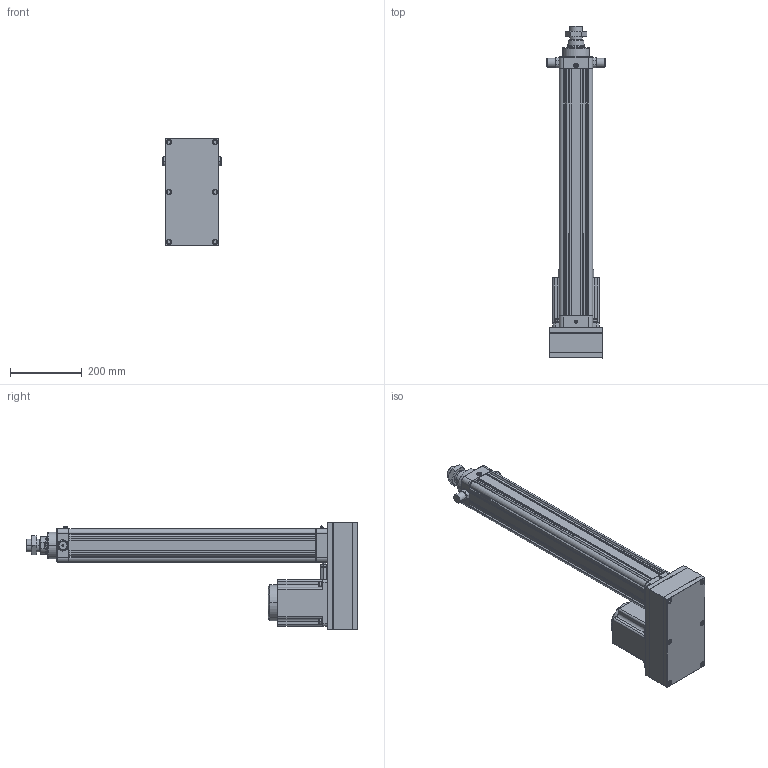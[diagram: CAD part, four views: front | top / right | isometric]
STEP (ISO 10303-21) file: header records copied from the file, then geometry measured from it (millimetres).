
FILE_DESCRIPTION((''),'2;1');
FILE_NAME('HE80-D-P_ASM','2020-05-13T',('ASUS20200'),(''),'CREO PARAMETRIC BY PTC INC, 2014190','CREO PARAMETRIC BY PTC INC, 2014190','');
FILE_SCHEMA(('CONFIG_CONTROL_DESIGN'));
Length unit declared in the file: millimetre
Products named in the file (26): HE80-D-P-001-X1; HE80-D-P-002-X1; HE80-D-P-003-X1; 30304J; YZ-M6X1; SLM-01; JDB506030; HE80-100-D-P-X1_ASM; HE80-P-010-X1-130N; 130ST-M10010; M10X25; HE80-P-009-X1-130N; HE80-P-013-X1-130N; TD-8; M8X35; M8X75; LM-M8-7-5; M10X1-25-40; LM-M10-30; LM-M10; HE80-D-P-005-X1; HE80-D-P-004-X1; HE80-D-P-008-X1; LGLM-M10-25; HE80-TC; HE80-D-P_ASM
Assembly tree (47 placements, depth 3):
  HE80-D-P_ASM
    HE80-100-D-P-X1_ASM
      HE80-D-P-001-X1
      HE80-D-P-002-X1
      HE80-D-P-003-X1
      30304J  x2
      YZ-M6X1
      SLM-01
      JDB506030
    HE80-P-010-X1-130N
    130ST-M10010
    M10X25  x4
    HE80-P-009-X1-130N
    HE80-P-013-X1-130N
    TD-8  x4
    M8X35  x4
    M8X75  x6
    LM-M8-7-5  x4
    M10X1-25-40
    LM-M10-30
    LM-M10
    HE80-D-P-005-X1
    HE80-D-P-004-X1
    HE80-D-P-008-X1
    LGLM-M10-25  x4
    HE80-TC  x2
Bounding box: 163 x 924 x 300 mm (x, y, z)
Volume: 6476838.6 mm3; surface area: 1458279.5 mm2
Topology: 46 solids, 78 shells, 2387 faces, 5548 edges, 3330 vertices
Faces by surface type: plane 880, cone 725, cylinder 650, torus 102, sphere 26, bspline 4
Entity records: 54513 total; most frequent: CARTESIAN_POINT 10898, DIRECTION 9550, ORIENTED_EDGE 8478, EDGE_CURVE 4300, AXIS2_PLACEMENT_3D 3649, VERTEX_POINT 2590, VECTOR 2252, LINE 2252
